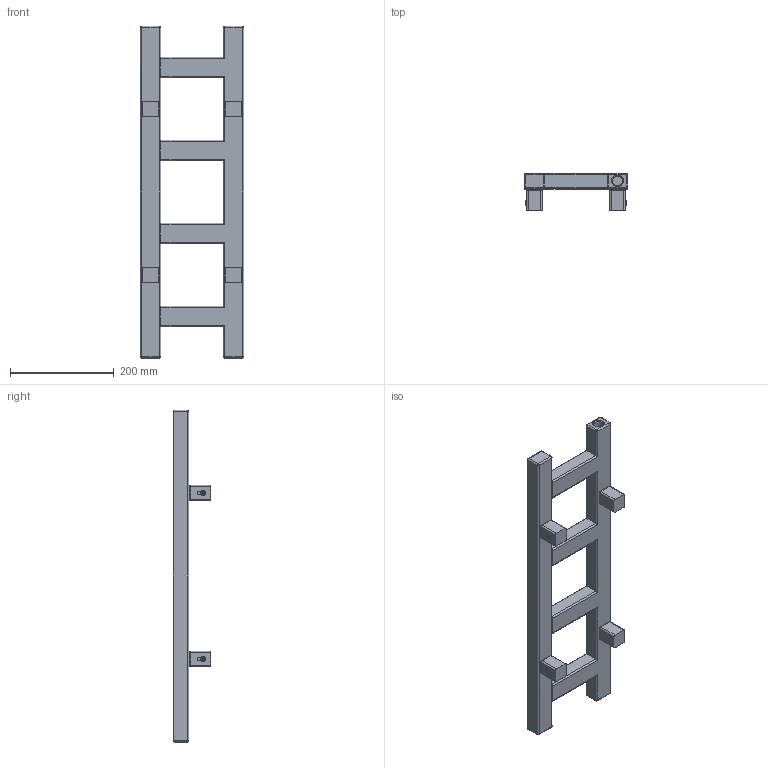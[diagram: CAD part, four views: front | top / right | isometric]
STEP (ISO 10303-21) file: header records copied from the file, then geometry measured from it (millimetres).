
FILE_DESCRIPTION((''),'2;1');
FILE_NAME('Z:\R\G\P\RGP102 - Grzejnik Easy 2012\Work\Inventor\Marketing\Modele AutoCAD\EAS-200-640 S5.stp','2012-07-02T08:14:32',('KurKa'),(''),'Autodesk Inventor 2012','Autodesk Inventor 2012','');
FILE_SCHEMA(('AUTOMOTIVE_DESIGN { 1 0 10303 214 1 1 1 1 }'));
Length unit declared in the file: millimetre
Products named in the file (3): EAS-200-640 S5; MMT42_marketing
Assembly tree (5 placements, depth 2):
  EAS-200-640 S5
    EAS-200-640 S5
    MMT42_marketing  x4
Bounding box: 200 x 72 x 640 mm (x, y, z)
Volume: 2229328.2 mm3; surface area: 265996.7 mm2
Topology: 5 solids, 5 shells, 286 faces, 674 edges, 403 vertices
Faces by surface type: plane 139, cylinder 98, cone 27, sphere 14, torus 8
Full cylindrical faces by diameter (mm): 4.509 x4, 12 x4, 18.631 x3
Entity records: 4152 total; most frequent: DIRECTION 759, CARTESIAN_POINT 704, ORIENTED_EDGE 646, EDGE_CURVE 323, AXIS2_PLACEMENT_3D 281, VECTOR 197, LINE 197, VERTEX_POINT 186
